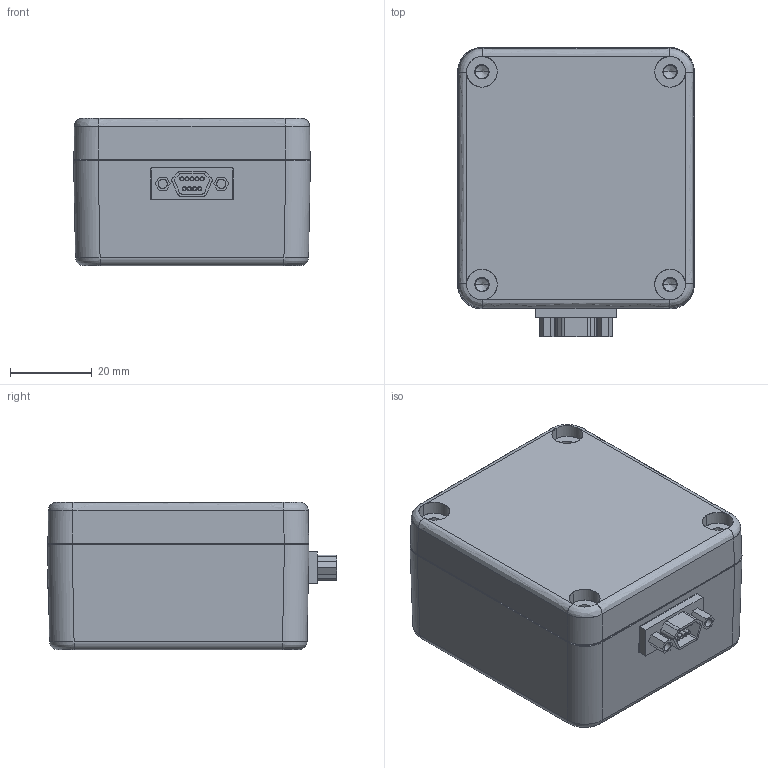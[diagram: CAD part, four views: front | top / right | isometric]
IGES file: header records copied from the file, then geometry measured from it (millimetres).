
Start section: SolidWorks IGES file using analytic representation for surfaces
Global section: file name: C:\Documents and Settings\Administrator\My Documents\EDI\3D\SMT9700\smt9700.IGS; native system: SolidWorks 2008; preprocessor: SolidWorks 2008; author: Administrator; date: 100305.130136; units: millimetre
Bounding box: 57.89 x 70.8 x 36 mm (x, y, z)
Surface area: 33644.8 mm2 (no closed solid volume)
Topology: 0 solids, 0 shells, 551 faces, 6800 edges, 6780 vertices
Faces by surface type: bspline 279, revolution 272
